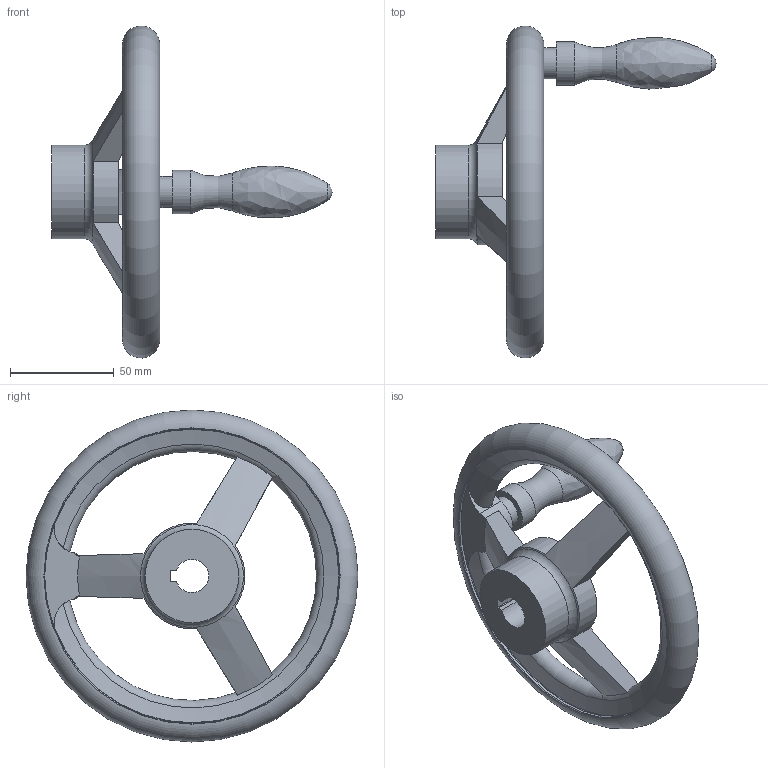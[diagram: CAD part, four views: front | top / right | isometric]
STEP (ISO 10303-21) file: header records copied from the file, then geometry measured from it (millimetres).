
FILE_DESCRIPTION( ( 'STEP AP203' ), '1' );
FILE_NAME( 'C:/Temp/Ganter_Step_05_03_2020/data/1_3/gn_950_1/gn_950_1_k/gn_950_1_k_d/Handwheel GN 950.1-GG-160-K16-D.stp', '2020-03-05T10:32:37', ( 'License CC BY-ND 4.0' ), ( 'CADENAS' ), ' ', 'PARTsolutions', ' ' );
FILE_SCHEMA( ( 'CONFIG_CONTROL_DESIGN' ) );
Length unit declared in the file: millimetre
Products named in the file (1): _Handwheel GN 950.1-GG-160-K16-D
Bounding box: 135 x 159.97 x 159.97 mm (x, y, z)
Volume: 206359.3 mm3; surface area: 48109.9 mm2
Topology: 1 solids, 1 shells, 46 faces, 129 edges, 82 vertices
Faces by surface type: cylinder 15, plane 14, torus 11, cone 4, bspline 1, sphere 1
Full cylindrical faces by diameter (mm): 15 x1, 21 x1, 45 x2, 142 x2
Entity records: 1705 total; most frequent: CARTESIAN_POINT 594, DIRECTION 214, ORIENTED_EDGE 210, EDGE_CURVE 105, AXIS2_PLACEMENT_3D 96, VERTEX_POINT 78, EDGE_LOOP 69, FACE_OUTER_BOUND 61
